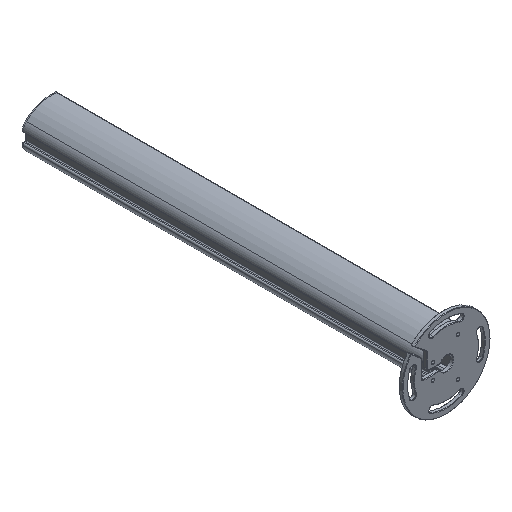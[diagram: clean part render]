
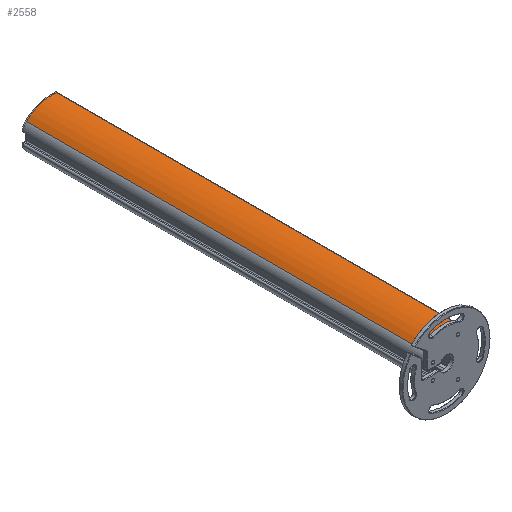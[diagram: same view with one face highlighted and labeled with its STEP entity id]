
A CAD part, isometric view. The second image highlights one B-rep face of the part: STEP entity #2558.
In plain terms, the highlighted cylindrical face has radius 79.059 mm (diameter 158.118 mm), a partial arc.
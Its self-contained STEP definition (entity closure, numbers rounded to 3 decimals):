
#72=CARTESIAN_POINT('',(24.886,-435.,-29.268));
#73=DIRECTION('',(0.,1.,0.));
#74=DIRECTION('',(-0.694,0.,0.72));
#75=AXIS2_PLACEMENT_3D('',#72,#73,#74);
#646=DIRECTION('',(0.,1.,0.));
#647=VECTOR('',#646,870.);
#648=CARTESIAN_POINT('',(35.448,-435.,49.083));
#649=LINE('',#648,#647);
#650=DIRECTION('',(0.,1.,0.));
#651=VECTOR('',#650,870.);
#652=CARTESIAN_POINT('',(-30.018,-435.,27.617));
#653=LINE('',#652,#651);
#1015=CARTESIAN_POINT('',(24.886,435.,-29.268));
#1016=DIRECTION('',(0.,1.,0.));
#1017=DIRECTION('',(-0.694,0.,0.72));
#1018=AXIS2_PLACEMENT_3D('',#1015,#1016,#1017);
#1116=CARTESIAN_POINT('',(-30.018,-435.,27.617));
#1117=VERTEX_POINT('',#1116);
#1118=CARTESIAN_POINT('',(35.448,-435.,49.083));
#1119=VERTEX_POINT('',#1118);
#1282=CARTESIAN_POINT('',(-30.018,435.,27.617));
#1283=VERTEX_POINT('',#1282);
#1284=CARTESIAN_POINT('',(35.448,435.,49.083));
#1285=VERTEX_POINT('',#1284);
#2545=CARTESIAN_POINT('',(24.886,-435.,-29.268));
#2546=DIRECTION('',(0.,1.,0.));
#2547=DIRECTION('',(1.,0.,0.));
#2548=AXIS2_PLACEMENT_3D('',#2545,#2546,#2547);
#2549=CYLINDRICAL_SURFACE('',#2548,79.059);
#2550=ORIENTED_EDGE('',*,*,#1453,.F.);
#2552=ORIENTED_EDGE('',*,*,#2551,.T.);
#2554=ORIENTED_EDGE('',*,*,#2553,.T.);
#2555=ORIENTED_EDGE('',*,*,#2537,.F.);
#2556=EDGE_LOOP('',(#2550,#2552,#2554,#2555));
#2557=FACE_OUTER_BOUND('',#2556,.F.);
#2558=ADVANCED_FACE('',(#2557),#2549,.T.);
#76=CIRCLE('',#75,79.059);
#1019=CIRCLE('',#1018,79.059);
#1453=EDGE_CURVE('',#1117,#1119,#76,.T.);
#2537=EDGE_CURVE('',#1119,#1285,#649,.T.);
#2551=EDGE_CURVE('',#1117,#1283,#653,.T.);
#2553=EDGE_CURVE('',#1283,#1285,#1019,.T.);
